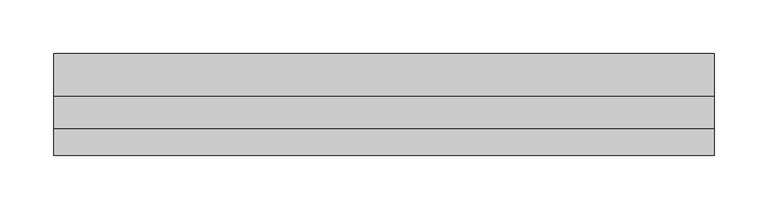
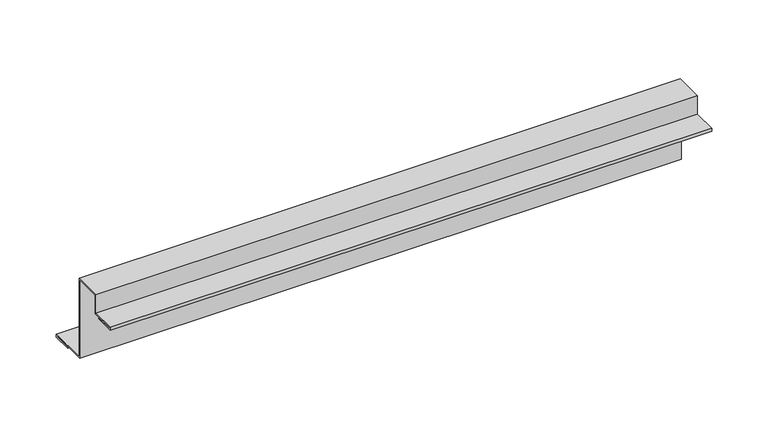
"""IFC4 building model written with IfcOpenShell, lengths in millimetres: proxy geometry, АК7_1 низ Обрамление оконного_дверного проема : АК7_1 низ Обрамление оконного_дверного проема."""

from ifc_helpers import new_model, si_unit, frame, origin, place, context, project, spatial, polyline, outline, extrude, source, transform, mapped, element, save


def generic_models_617ec701(model_context):
    return source(origin(), model_context, "Body", "SweptSolid", [
        extrude(outline(polyline([(99.137951, -85.0), (99.137951, -88.0), (79.137951, -88.0), (79.137951, -87.0), (98.137951, -87.0), (98.137951, -86.0), (58.1379519, -86.0), (58.1379519, -1.0), (30.1379519, -1.0), (30.1379519, -21.0000023), (5.1379519, -21.0000023), (5.1379519, -22.0000023), (24.1379519, -22.0000023), (24.1379519, -23.0000023), (4.1379519, -23.0000023), (4.1379519, -20.0000023), (29.1379519, -20.0000023), (29.1379519, 0.0), (59.1379519, 0.0), (59.1379519, -85.0), (99.137951, -85.0)])), frame((0.0, 0.0, 0.0), z_axis=(1.0, 0.0, 0.0), x_axis=(0.0, 1.0, 0.0)), (0.0, 0.0, 1.0), 615.0),
    ])


if __name__ == "__main__":
    model = new_model("IFC4")
    model_context = context("Model", 3, world=origin())
    ifc_project = project(units=[si_unit("LENGTHUNIT", "METRE", prefix="MILLI")], contexts=[model_context])
    site = spatial("IfcSite", under=ifc_project)
    building = spatial("IfcBuilding", under=site)
    placement = place(None, origin())
    generic_models_shape = generic_models_617ec701(model_context)
    element("IfcBuildingElementProxy", 1, Name="АК7_1 низ Обрамление оконного_дверного проема : АК7_1 низ Обрамление оконного_дверного проема", ObjectType="АК7_1 низ Обрамление оконного_дверного проема : АК7_1 низ Обрамление оконного_дверного проема", at=placement, inside=building, context=model_context, shape_type="MappedRepresentation", body=[
        mapped(generic_models_shape, transform((0.0, 0.0, 0.0), x_axis=(1.0, 0.0, 0.0), y_axis=(0.0, 1.0, 0.0), z_axis=(0.0, 0.0, 1.0))),
    ])
    save(model, "model.ifc")
